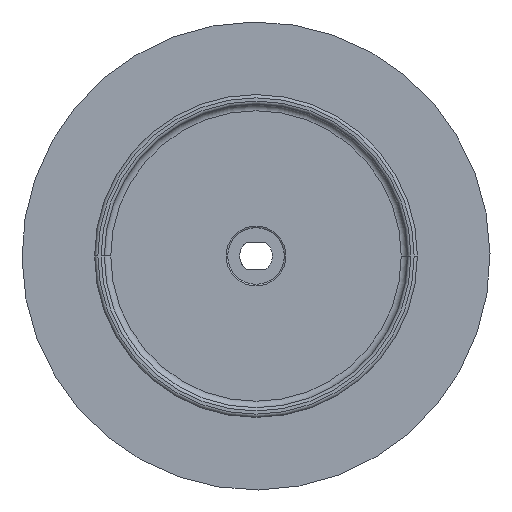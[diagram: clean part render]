
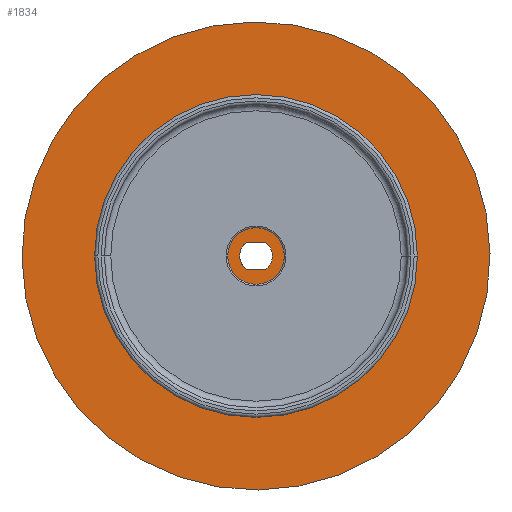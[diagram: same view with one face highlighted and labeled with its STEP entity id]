
A CAD part, front view. The second image highlights one B-rep face of the part: STEP entity #1834.
In plain terms, the highlighted planar face has unit normal (0, -1, 0).
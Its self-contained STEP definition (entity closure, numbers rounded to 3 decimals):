
#47 = ORIENTED_EDGE ( 'NONE', *, *, #366, .T. ) ;
#57 = EDGE_CURVE ( 'NONE', #195, #933, #1675, .T. ) ;
#59 = CARTESIAN_POINT ( 'NONE',  ( 3.033, 0., -4.1 ) ) ;
#118 = ORIENTED_EDGE ( 'NONE', *, *, #57, .T. ) ;
#123 = CARTESIAN_POINT ( 'NONE',  ( 0., 0., -72.5 ) ) ;
#150 = DIRECTION ( 'NONE',  ( 0., 1., 0. ) ) ;
#160 = EDGE_CURVE ( 'NONE', #669, #353, #882, .T. ) ;
#171 = DIRECTION ( 'NONE',  ( 0., 1., 0. ) ) ;
#195 = VERTEX_POINT ( 'NONE', #1901 ) ;
#213 = AXIS2_PLACEMENT_3D ( 'NONE', #352, #2242, #1395 ) ;
#252 = CARTESIAN_POINT ( 'NONE',  ( 0., 0., 0. ) ) ;
#325 = VERTEX_POINT ( 'NONE', #1435 ) ;
#352 = CARTESIAN_POINT ( 'NONE',  ( 0., 0., 0. ) ) ;
#353 = VERTEX_POINT ( 'NONE', #1976 ) ;
#360 = AXIS2_PLACEMENT_3D ( 'NONE', #390, #171, #709 ) ;
#366 = EDGE_CURVE ( 'NONE', #933, #669, #1630, .T. ) ;
#372 = DIRECTION ( 'NONE',  ( -1., 0., 0. ) ) ;
#390 = CARTESIAN_POINT ( 'NONE',  ( 0., 0., 0. ) ) ;
#425 = AXIS2_PLACEMENT_3D ( 'NONE', #252, #946, #1641 ) ;
#473 = CARTESIAN_POINT ( 'NONE',  ( 3.033, 0., 4.1 ) ) ;
#478 = FACE_BOUND ( 'NONE', #1084, .T. ) ;
#590 = EDGE_LOOP ( 'NONE', ( #606, #1221 ) ) ;
#606 = ORIENTED_EDGE ( 'NONE', *, *, #1532, .F. ) ;
#622 = EDGE_CURVE ( 'NONE', #325, #1768, #2027, .T. ) ;
#669 = VERTEX_POINT ( 'NONE', #59 ) ;
#674 = PLANE ( 'NONE',  #1014 ) ;
#709 = DIRECTION ( 'NONE',  ( 0., 0., 1. ) ) ;
#711 = CARTESIAN_POINT ( 'NONE',  ( -3.033, 0., -4.1 ) ) ;
#727 = VECTOR ( 'NONE', #372, 1000. ) ;
#792 = CIRCLE ( 'NONE', #213, 72.5 ) ;
#882 = LINE ( 'NONE', #711, #727 ) ;
#933 = VERTEX_POINT ( 'NONE', #473 ) ;
#946 = DIRECTION ( 'NONE',  ( 0., 1., 0. ) ) ;
#1002 = DIRECTION ( 'NONE',  ( 1., 0., 0. ) ) ;
#1014 = AXIS2_PLACEMENT_3D ( 'NONE', #1167, #150, #2207 ) ;
#1040 = EDGE_CURVE ( 'NONE', #353, #195, #2239, .T. ) ;
#1061 = CARTESIAN_POINT ( 'NONE',  ( 0., 0., 0. ) ) ;
#1084 = EDGE_LOOP ( 'NONE', ( #1528, #118, #47, #1504 ) ) ;
#1157 = AXIS2_PLACEMENT_3D ( 'NONE', #1061, #1567, #1237 ) ;
#1167 = CARTESIAN_POINT ( 'NONE',  ( 0., 0., 0. ) ) ;
#1221 = ORIENTED_EDGE ( 'NONE', *, *, #622, .F. ) ;
#1237 = DIRECTION ( 'NONE',  ( 0., 0., 1. ) ) ;
#1395 = DIRECTION ( 'NONE',  ( 0., 0., 1. ) ) ;
#1435 = CARTESIAN_POINT ( 'NONE',  ( 0., 0., 72.5 ) ) ;
#1504 = ORIENTED_EDGE ( 'NONE', *, *, #160, .T. ) ;
#1528 = ORIENTED_EDGE ( 'NONE', *, *, #1040, .T. ) ;
#1532 = EDGE_CURVE ( 'NONE', #1768, #325, #792, .T. ) ;
#1567 = DIRECTION ( 'NONE',  ( 0., 1., 0. ) ) ;
#1630 = CIRCLE ( 'NONE', #425, 5.1 ) ;
#1641 = DIRECTION ( 'NONE',  ( 0., 0., 1. ) ) ;
#1675 = LINE ( 'NONE', #1873, #1702 ) ;
#1702 = VECTOR ( 'NONE', #1002, 1000. ) ;
#1768 = VERTEX_POINT ( 'NONE', #123 ) ;
#1834 = ADVANCED_FACE ( 'NONE', ( #2189, #478 ), #674, .F. ) ;
#1873 = CARTESIAN_POINT ( 'NONE',  ( -3.033, 0., 4.1 ) ) ;
#1901 = CARTESIAN_POINT ( 'NONE',  ( -3.033, 0., 4.1 ) ) ;
#1976 = CARTESIAN_POINT ( 'NONE',  ( -3.033, 0., -4.1 ) ) ;
#2027 = CIRCLE ( 'NONE', #360, 72.5 ) ;
#2189 = FACE_OUTER_BOUND ( 'NONE', #590, .T. ) ;
#2207 = DIRECTION ( 'NONE',  ( 0., 0., 1. ) ) ;
#2239 = CIRCLE ( 'NONE', #1157, 5.1 ) ;
#2242 = DIRECTION ( 'NONE',  ( 0., 1., 0. ) ) ;
